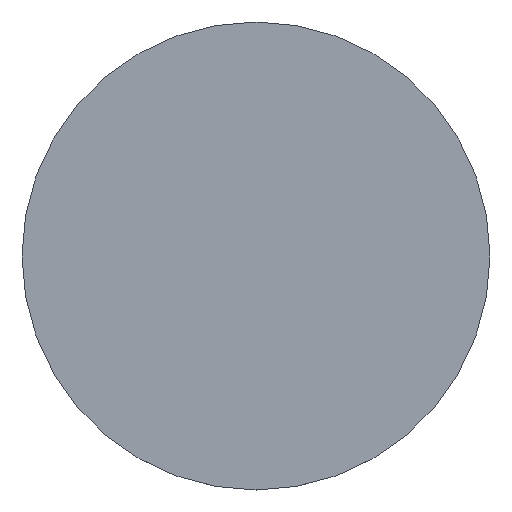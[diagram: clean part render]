
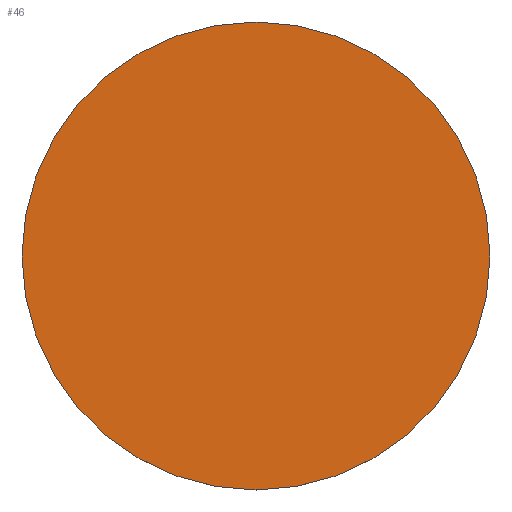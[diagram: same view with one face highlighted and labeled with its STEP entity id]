
A CAD part, top view. The second image highlights one B-rep face of the part: STEP entity #46.
In plain terms, the highlighted planar face has unit normal (0, 0, 1).
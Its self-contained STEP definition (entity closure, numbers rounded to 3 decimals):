
#46 = ADVANCED_FACE( '', ( #88 ), #89, .F. );
#88 = FACE_OUTER_BOUND( '', #121, .T. );
#89 = PLANE( '', #122 );
#121 = EDGE_LOOP( '', ( #180 ) );
#122 = AXIS2_PLACEMENT_3D( '', #181, #182, #183 );
#180 = ORIENTED_EDGE( '', *, *, #201, .F. );
#181 = CARTESIAN_POINT( '', ( -500., -500., 225.4 ) );
#182 = DIRECTION( '', ( 0., 0., -1. ) );
#183 = DIRECTION( '', ( -1., 0., 0. ) );
#201 = EDGE_CURVE( '', #232, #232, #233, .T. );
#232 = VERTEX_POINT( '', #271 );
#233 = CIRCLE( '', #272, 790. );
#271 = CARTESIAN_POINT( '', ( 50., -790., 225.4 ) );
#272 = AXIS2_PLACEMENT_3D( '', #300, #301, #302 );
#300 = CARTESIAN_POINT( '', ( 50., 0., 225.4 ) );
#301 = DIRECTION( '', ( 0., 0., -1. ) );
#302 = DIRECTION( '', ( 0., -1., 0. ) );
